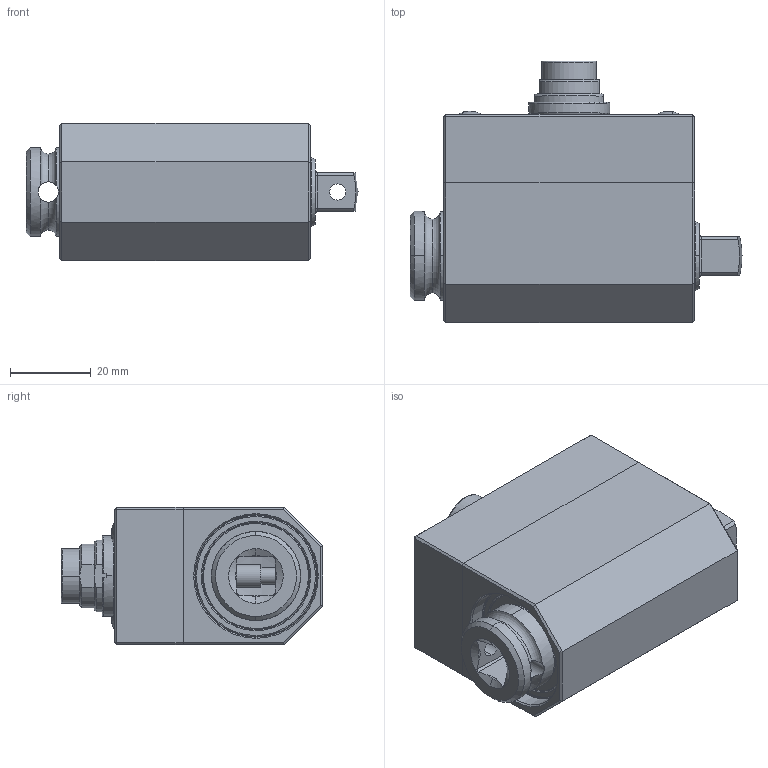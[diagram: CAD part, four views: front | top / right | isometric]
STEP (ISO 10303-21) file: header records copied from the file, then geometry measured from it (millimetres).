
FILE_DESCRIPTION (( 'STEP AP203' ), '1' );
FILE_NAME ('DRFN 3-8.STEP', '2014-01-20T14:09:04', ( 'nsi' ), ( '' ), 'SwSTEP 2.0', 'SolidWorks 2014', '' );
FILE_SCHEMA (( 'CONFIG_CONTROL_DESIGN' ));
Length unit declared in the file: millimetre
Products named in the file (1): DRFN 3-8
Bounding box: 82 x 64.6 x 34 mm (x, y, z)
Surface area: 20254.7 mm2 (no closed solid volume)
Topology: 0 solids, 17 shells, 301 faces, 828 edges, 546 vertices
Faces by surface type: plane 111, cylinder 96, torus 45, cone 43, sphere 6
Entity records: 10055 total; most frequent: CARTESIAN_POINT 2186, DIRECTION 1767, ORIENTED_EDGE 1464, EDGE_CURVE 828, AXIS2_PLACEMENT_3D 708, VERTEX_POINT 546, CIRCLE 406, LINE 351
